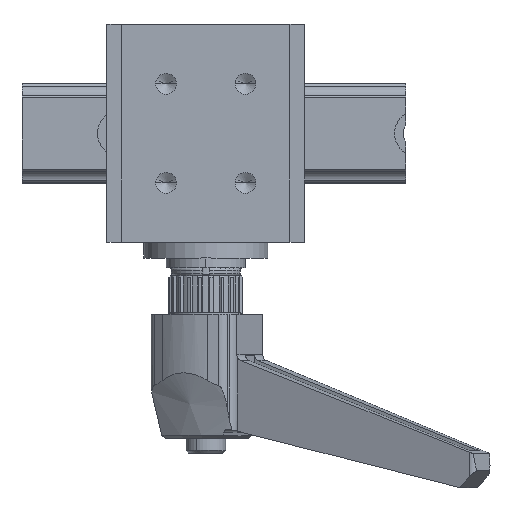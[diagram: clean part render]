
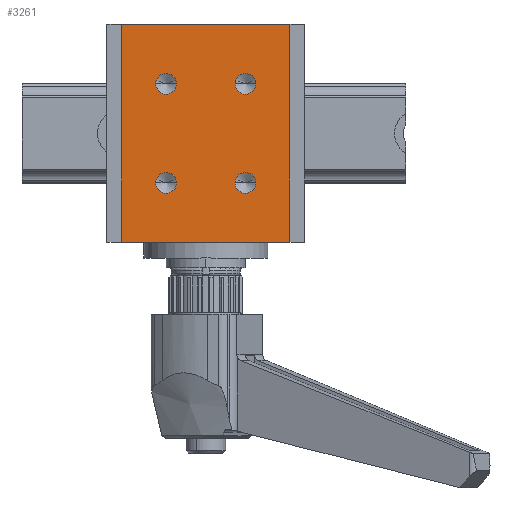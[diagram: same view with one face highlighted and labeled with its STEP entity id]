
A CAD part, top view. The second image highlights one B-rep face of the part: STEP entity #3261.
In plain terms, the highlighted planar face has unit normal (0, 0, 1) as drawn and (0, 1, 0) by its records, which use the part's own axes.
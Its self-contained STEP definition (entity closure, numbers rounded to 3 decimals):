
#60 = EDGE_LOOP ( 'NONE', ( #8523, #8139 ) ) ;
#100 = VERTEX_POINT ( 'NONE', #9202 ) ;
#238 = EDGE_CURVE ( 'NONE', #927, #3420, #8169, .T. ) ;
#253 = CARTESIAN_POINT ( 'NONE',  ( 10., 0., 8. ) ) ;
#382 = ORIENTED_EDGE ( 'NONE', *, *, #1756, .F. ) ;
#512 = VECTOR ( 'NONE', #4567, 1000. ) ;
#737 = CARTESIAN_POINT ( 'NONE',  ( -10., 0., -8. ) ) ;
#834 = AXIS2_PLACEMENT_3D ( 'NONE', #1934, #7651, #7452 ) ;
#927 = VERTEX_POINT ( 'NONE', #7306 ) ;
#956 = EDGE_CURVE ( 'NONE', #7995, #4971, #5686, .T. ) ;
#1002 = EDGE_LOOP ( 'NONE', ( #1863, #4901 ) ) ;
#1044 = DIRECTION ( 'NONE',  ( 0., 1., 0. ) ) ;
#1349 = DIRECTION ( 'NONE',  ( 0., 1., 0. ) ) ;
#1756 = EDGE_CURVE ( 'NONE', #5891, #4971, #6388, .T. ) ;
#1793 = CARTESIAN_POINT ( 'NONE',  ( -10., 0., 5.9 ) ) ;
#1837 = CARTESIAN_POINT ( 'NONE',  ( -22., 0., -17. ) ) ;
#1863 = ORIENTED_EDGE ( 'NONE', *, *, #5591, .F. ) ;
#1898 = EDGE_CURVE ( 'NONE', #8075, #2860, #4863, .T. ) ;
#1899 = VECTOR ( 'NONE', #10007, 1000. ) ;
#1934 = CARTESIAN_POINT ( 'NONE',  ( -10., 0., 8. ) ) ;
#2131 = DIRECTION ( 'NONE',  ( 0., 0., -1. ) ) ;
#2337 = AXIS2_PLACEMENT_3D ( 'NONE', #8366, #9911, #6771 ) ;
#2489 = VERTEX_POINT ( 'NONE', #5819 ) ;
#2544 = CIRCLE ( 'NONE', #6134, 2.1 ) ;
#2628 = CARTESIAN_POINT ( 'NONE',  ( -10., 0., -8. ) ) ;
#2688 = DIRECTION ( 'NONE',  ( 0., 1., 0. ) ) ;
#2772 = EDGE_CURVE ( 'NONE', #3420, #927, #4018, .T. ) ;
#2835 = DIRECTION ( 'NONE',  ( 0., 0., 1. ) ) ;
#2860 = VERTEX_POINT ( 'NONE', #4365 ) ;
#2945 = EDGE_CURVE ( 'NONE', #2489, #7971, #2544, .T. ) ;
#2971 = FACE_BOUND ( 'NONE', #60, .T. ) ;
#2993 = CARTESIAN_POINT ( 'NONE',  ( -22., 0., 17. ) ) ;
#3202 = AXIS2_PLACEMENT_3D ( 'NONE', #2628, #5501, #5737 ) ;
#3261 = ADVANCED_FACE ( 'NONE', ( #5681, #8843, #2971, #5882, #5168 ), #8322, .F. ) ;
#3283 = CARTESIAN_POINT ( 'NONE',  ( -22., 0., 17. ) ) ;
#3416 = CARTESIAN_POINT ( 'NONE',  ( 10., 0., 10.1 ) ) ;
#3420 = VERTEX_POINT ( 'NONE', #9288 ) ;
#3776 = ORIENTED_EDGE ( 'NONE', *, *, #956, .T. ) ;
#3803 = LINE ( 'NONE', #2993, #512 ) ;
#3817 = CARTESIAN_POINT ( 'NONE',  ( 10., 0., -10.1 ) ) ;
#3873 = DIRECTION ( 'NONE',  ( 0., 0., 1. ) ) ;
#4018 = CIRCLE ( 'NONE', #3202, 2.1 ) ;
#4063 = DIRECTION ( 'NONE',  ( -1., 0., 0. ) ) ;
#4275 = DIRECTION ( 'NONE',  ( 0., 0., 1. ) ) ;
#4361 = ORIENTED_EDGE ( 'NONE', *, *, #9559, .F. ) ;
#4365 = CARTESIAN_POINT ( 'NONE',  ( -10., 0., 10.1 ) ) ;
#4391 = ORIENTED_EDGE ( 'NONE', *, *, #4508, .T. ) ;
#4508 = EDGE_CURVE ( 'NONE', #100, #7995, #6874, .T. ) ;
#4567 = DIRECTION ( 'NONE',  ( -1., 0., 0. ) ) ;
#4620 = CIRCLE ( 'NONE', #2337, 2.1 ) ;
#4633 = CARTESIAN_POINT ( 'NONE',  ( 22., 0., -17. ) ) ;
#4655 = AXIS2_PLACEMENT_3D ( 'NONE', #9736, #7528, #5910 ) ;
#4863 = CIRCLE ( 'NONE', #4655, 2.1 ) ;
#4901 = ORIENTED_EDGE ( 'NONE', *, *, #1898, .F. ) ;
#4971 = VERTEX_POINT ( 'NONE', #9471 ) ;
#5121 = DIRECTION ( 'NONE',  ( 0., -1., 0. ) ) ;
#5145 = EDGE_CURVE ( 'NONE', #8165, #9593, #8984, .T. ) ;
#5168 = FACE_OUTER_BOUND ( 'NONE', #6609, .T. ) ;
#5459 = AXIS2_PLACEMENT_3D ( 'NONE', #8917, #1044, #4275 ) ;
#5501 = DIRECTION ( 'NONE',  ( 0., 1., 0. ) ) ;
#5591 = EDGE_CURVE ( 'NONE', #2860, #8075, #7413, .T. ) ;
#5655 = CARTESIAN_POINT ( 'NONE',  ( -22., 0., 17. ) ) ;
#5666 = VECTOR ( 'NONE', #8099, 1000. ) ;
#5681 = FACE_BOUND ( 'NONE', #1002, .T. ) ;
#5684 = EDGE_CURVE ( 'NONE', #7971, #2489, #4620, .T. ) ;
#5686 = LINE ( 'NONE', #1837, #6486 ) ;
#5737 = DIRECTION ( 'NONE',  ( 0., 0., 1. ) ) ;
#5819 = CARTESIAN_POINT ( 'NONE',  ( 10., 0., -5.9 ) ) ;
#5843 = AXIS2_PLACEMENT_3D ( 'NONE', #253, #2688, #6425 ) ;
#5880 = ORIENTED_EDGE ( 'NONE', *, *, #2772, .F. ) ;
#5882 = FACE_BOUND ( 'NONE', #7245, .T. ) ;
#5891 = VERTEX_POINT ( 'NONE', #3283 ) ;
#5910 = DIRECTION ( 'NONE',  ( 0., 0., 1. ) ) ;
#5981 = CARTESIAN_POINT ( 'NONE',  ( -22., 0., 17. ) ) ;
#6134 = AXIS2_PLACEMENT_3D ( 'NONE', #6724, #9052, #2835 ) ;
#6388 = LINE ( 'NONE', #5655, #5666 ) ;
#6425 = DIRECTION ( 'NONE',  ( 0., 0., 1. ) ) ;
#6486 = VECTOR ( 'NONE', #4063, 1000. ) ;
#6609 = EDGE_LOOP ( 'NONE', ( #3776, #382, #9049, #4391 ) ) ;
#6724 = CARTESIAN_POINT ( 'NONE',  ( 10., 0., -8. ) ) ;
#6771 = DIRECTION ( 'NONE',  ( 0., 0., 1. ) ) ;
#6874 = LINE ( 'NONE', #9446, #1899 ) ;
#7245 = EDGE_LOOP ( 'NONE', ( #9722, #5880 ) ) ;
#7306 = CARTESIAN_POINT ( 'NONE',  ( -10., 0., -5.9 ) ) ;
#7413 = CIRCLE ( 'NONE', #834, 2.1 ) ;
#7452 = DIRECTION ( 'NONE',  ( 0., 0., 1. ) ) ;
#7528 = DIRECTION ( 'NONE',  ( 0., 1., 0. ) ) ;
#7651 = DIRECTION ( 'NONE',  ( 0., 1., 0. ) ) ;
#7971 = VERTEX_POINT ( 'NONE', #3817 ) ;
#7995 = VERTEX_POINT ( 'NONE', #4633 ) ;
#8075 = VERTEX_POINT ( 'NONE', #1793 ) ;
#8099 = DIRECTION ( 'NONE',  ( 0., 0., -1. ) ) ;
#8139 = ORIENTED_EDGE ( 'NONE', *, *, #5684, .F. ) ;
#8165 = VERTEX_POINT ( 'NONE', #8812 ) ;
#8169 = CIRCLE ( 'NONE', #9316, 2.1 ) ;
#8229 = AXIS2_PLACEMENT_3D ( 'NONE', #5981, #5121, #2131 ) ;
#8322 = PLANE ( 'NONE',  #8229 ) ;
#8340 = EDGE_CURVE ( 'NONE', #100, #5891, #3803, .T. ) ;
#8366 = CARTESIAN_POINT ( 'NONE',  ( 10., 0., -8. ) ) ;
#8523 = ORIENTED_EDGE ( 'NONE', *, *, #2945, .F. ) ;
#8762 = CIRCLE ( 'NONE', #5459, 2.1 ) ;
#8812 = CARTESIAN_POINT ( 'NONE',  ( 10., 0., 5.9 ) ) ;
#8843 = FACE_BOUND ( 'NONE', #9931, .T. ) ;
#8917 = CARTESIAN_POINT ( 'NONE',  ( 10., 0., 8. ) ) ;
#8984 = CIRCLE ( 'NONE', #5843, 2.1 ) ;
#9049 = ORIENTED_EDGE ( 'NONE', *, *, #8340, .F. ) ;
#9052 = DIRECTION ( 'NONE',  ( 0., 1., 0. ) ) ;
#9202 = CARTESIAN_POINT ( 'NONE',  ( 22., 0., 17. ) ) ;
#9288 = CARTESIAN_POINT ( 'NONE',  ( -10., 0., -10.1 ) ) ;
#9316 = AXIS2_PLACEMENT_3D ( 'NONE', #737, #1349, #3873 ) ;
#9446 = CARTESIAN_POINT ( 'NONE',  ( 22., 0., 17. ) ) ;
#9471 = CARTESIAN_POINT ( 'NONE',  ( -22., 0., -17. ) ) ;
#9559 = EDGE_CURVE ( 'NONE', #9593, #8165, #8762, .T. ) ;
#9593 = VERTEX_POINT ( 'NONE', #3416 ) ;
#9722 = ORIENTED_EDGE ( 'NONE', *, *, #238, .F. ) ;
#9736 = CARTESIAN_POINT ( 'NONE',  ( -10., 0., 8. ) ) ;
#9911 = DIRECTION ( 'NONE',  ( 0., 1., 0. ) ) ;
#9931 = EDGE_LOOP ( 'NONE', ( #4361, #10117 ) ) ;
#10007 = DIRECTION ( 'NONE',  ( 0., 0., -1. ) ) ;
#10117 = ORIENTED_EDGE ( 'NONE', *, *, #5145, .F. ) ;
